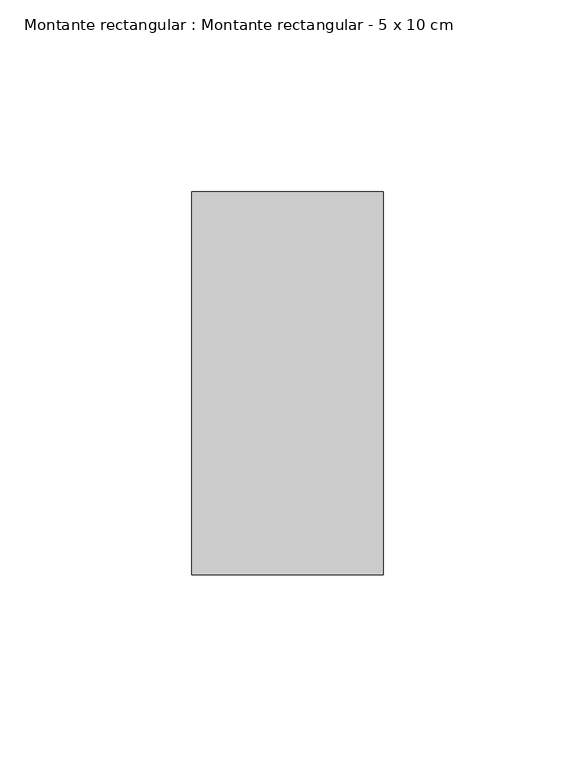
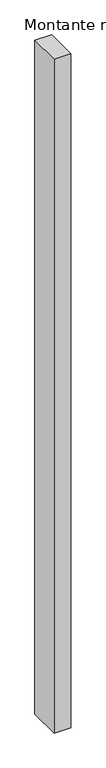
"""IFC4 building model written with IfcOpenShell, lengths in millimetres: member geometry, Montante rectangular : Montante rectangular - 5 x 10 cm."""

from ifc_helpers import new_model, si_unit, frame, origin, place, context, project, spatial, polyline, outline, extrude, source, transform, mapped, element, save


def montante_rectangular_montante_rectangular_5_x_10_cm_53b4af73(model_context):
    return source(origin(), model_context, "Body", "SweptSolid", [
        extrude(outline(polyline([(25.0, 50.0), (25.0, -50.0), (-25.0, -50.0), (-25.0, 50.0), (25.0, 50.0)])), frame((0.0, 0.0, -2144.310117), z_axis=(0.0, 0.0, 1.0), x_axis=(1.0, 0.0, 0.0)), (0.0, 0.0, 1.0), 2144.310117),
    ])


if __name__ == "__main__":
    model = new_model("IFC4")
    model_context = context("Model", 3, world=origin())
    ifc_project = project(units=[si_unit("LENGTHUNIT", "METRE", prefix="MILLI")], contexts=[model_context])
    site = spatial("IfcSite", under=ifc_project)
    building = spatial("IfcBuilding", under=site)
    placement = place(None, origin())
    montante_rectangular_montante_rectangular_5_x_10_cm_shape = montante_rectangular_montante_rectangular_5_x_10_cm_53b4af73(model_context)
    element("IfcMember", 1, ObjectType="Montante rectangular : Montante rectangular - 5 x 10 cm", at=placement, inside=building, context=model_context, shape_type="MappedRepresentation", body=[
        mapped(montante_rectangular_montante_rectangular_5_x_10_cm_shape, transform((0.0, 0.0, 0.0), x_axis=(1.0, 0.0, 0.0), y_axis=(0.0, 1.0, 0.0), z_axis=(0.0, 0.0, 1.0))),
    ])
    save(model, "model.ifc")
